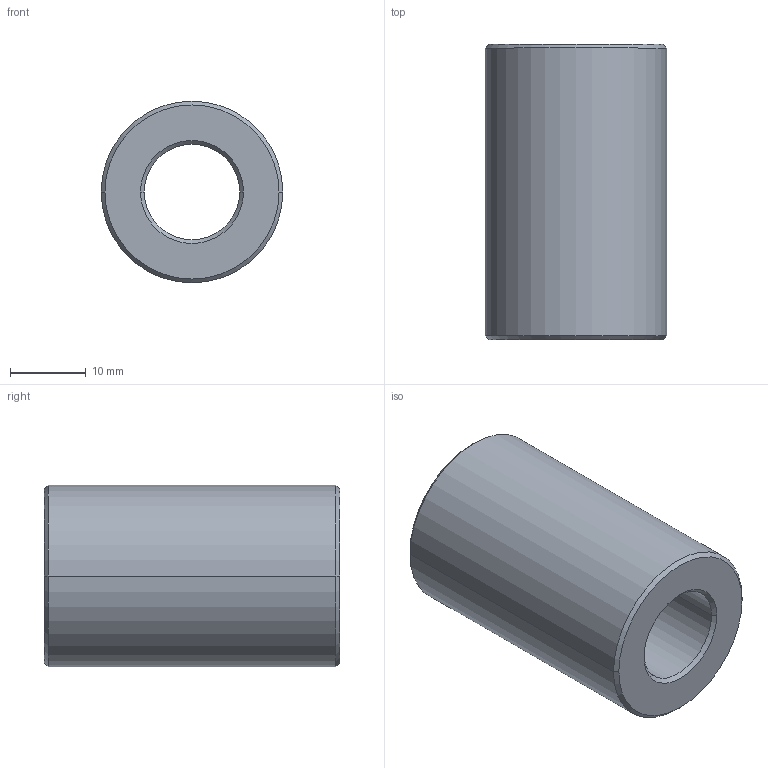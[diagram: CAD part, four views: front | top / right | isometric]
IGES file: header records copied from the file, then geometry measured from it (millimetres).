
Start section:  PTC IGES file: dummy_pipe_100.igs
Global section: file name: dummy_pipe_100.igs; native system: Creo Elements/Pro by Parametric Technology Corporation; preprocessor: 2010480; author: asus; organization: Unknown; date: 20121101.190458; units: millimetre
Bounding box: 24 x 39 x 24 mm (x, y, z)
Volume: 12751.5 mm3; surface area: 5072.4 mm2
Topology: 1 solids, 1 shells, 14 faces, 28 edges, 16 vertices
Faces by surface type: revolution 12, bspline 2
